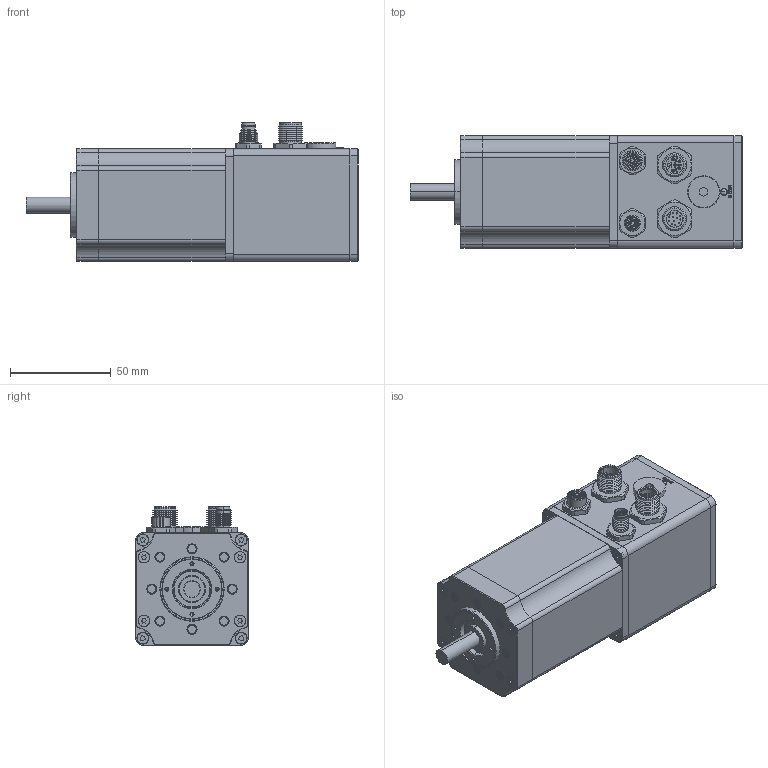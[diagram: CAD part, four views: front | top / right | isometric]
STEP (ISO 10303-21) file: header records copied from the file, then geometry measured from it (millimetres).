
FILE_DESCRIPTION(('STEP AP214'),'1');
FILE_NAME('cctmp_195307ED-9174-426F-9B77-653BDE646446_2020_1_31_16_0_32_255..stp','2020-01-31T15:00:33',('maxon motor ag'),('CADClick - www.CADClick.com'),'Spatial InterOp 3D',' ','unknown authorization');
FILE_SCHEMA(('AUTOMOTIVE_DESIGN'));
Length unit declared in the file: millimetre
Products named in the file (39): 0
Assembly tree (38 placements, depth 2):
  (unnamed)
    0
    0
    0
    0
    0
    0
    0
    0
    0
    0
    0
    0
    0
    0
    0
    0
    0
    0
    0
    0
    0
    0
    0
    0
    0
    0
    0
    0
    0
    0
    0
    0
    0
    0
    0
    0
    0
    0
Bounding box: 165 x 56 x 69 mm (x, y, z)
Volume: 422596.2 mm3; surface area: 75522.9 mm2
Topology: 50 solids, 51 shells, 1866 faces, 4270 edges, 2564 vertices
Faces by surface type: cone 706, cylinder 540, plane 498, torus 100, sphere 12, bspline 10
Entity records: 77205 total; most frequent: DIRECTION 10019, CARTESIAN_POINT 8997, ORIENTED_EDGE 8504, EDGE_CURVE 4252, AXIS2_PLACEMENT_3D 3914, STYLED_ITEM 3660, PRESENTATION_STYLE_ASSIGNMENT 3660, COLOUR_RGB 3660
